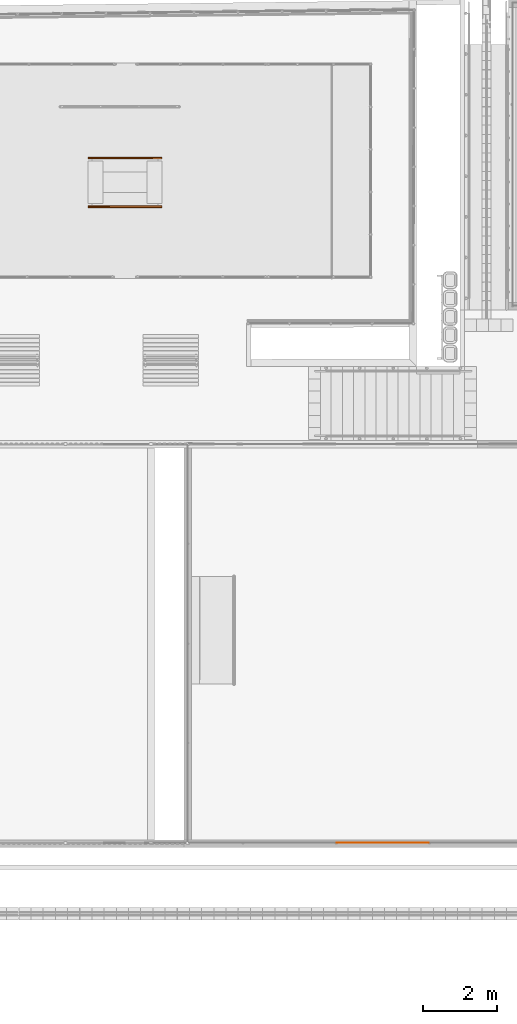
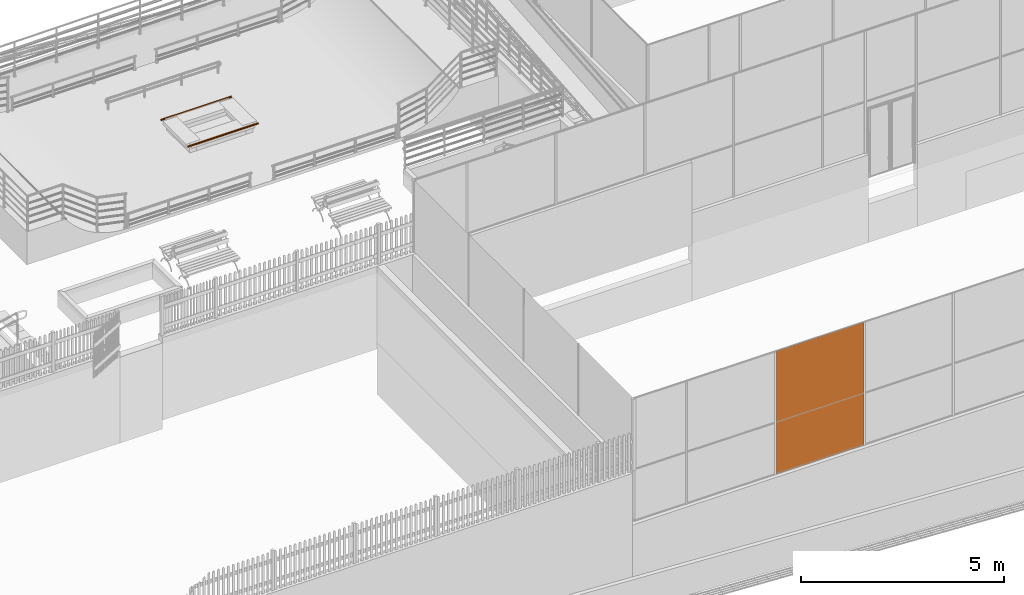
# One storey, part 152 of 237: 3 proxies.
"""IFC2X3 building model written with IfcOpenShell, lengths in millimetres."""

from ifc_helpers import new_model, entity, si_unit, converted_unit, derived_unit, money_unit, direction, frame, origin_with_axes, place, context, subcontext, project, spatial, open_shell, faceted_brep, surface_model, source, transform, mapped, type_object, element, save


model = new_model("IFC2X3")

# Units and contexts
model_context = context("Model", 3, precision=0.01, world=origin_with_axes(), true_north=direction((0.0, 1.0)))
body_context = subcontext(model_context, "Body", "Model", "MODEL_VIEW")
ifc_project = project(units=[si_unit("LENGTHUNIT", "METRE", prefix="MILLI"), si_unit("AREAUNIT", "SQUARE_METRE"), si_unit("VOLUMEUNIT", "CUBIC_METRE"), converted_unit("PLANEANGLEUNIT", "DEGREE", entity("IfcPlaneAngleMeasure", 0.0174532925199), si_unit("PLANEANGLEUNIT", "RADIAN"), dimensions=[0, 0, 0, 0, 0, 0, 0]), money_unit("USD"), converted_unit("TIMEUNIT", "Year", entity("IfcTimeMeasure", 31556926.0), si_unit("TIMEUNIT", "SECOND"), dimensions=[0, 0, 1, 0, 0, 0, 0]), si_unit("MASSUNIT", "GRAM", prefix="KILO"), si_unit("THERMODYNAMICTEMPERATUREUNIT", "DEGREE_CELSIUS"), si_unit("LUMINOUSINTENSITYUNIT", "LUMEN"), si_unit("ENERGYUNIT", "JOULE", prefix="MEGA"), derived_unit("THERMALCONDUCTANCEUNIT", [(si_unit("POWERUNIT", "WATT"), 1), (si_unit("LENGTHUNIT", "METRE"), -1), (si_unit("THERMODYNAMICTEMPERATUREUNIT", "KELVIN"), -1)]), derived_unit("SPECIFICHEATCAPACITYUNIT", [(si_unit("ENERGYUNIT", "JOULE"), 1), (si_unit("MASSUNIT", "GRAM", prefix="KILO"), -1), (si_unit("THERMODYNAMICTEMPERATUREUNIT", "KELVIN"), -1)]), derived_unit("MASSDENSITYUNIT", [(si_unit("MASSUNIT", "GRAM", prefix="KILO"), 1), (si_unit("VOLUMEUNIT", "CUBIC_METRE"), -1)])], contexts=[model_context])

# Site, building, storey
site_placement = place(None, origin_with_axes())
site = spatial("IfcSite", under=ifc_project, at=site_placement, Name="Local", CompositionType="ELEMENT")
building_placement = place(site_placement, origin_with_axes())
building = spatial("IfcBuilding", under=site, at=building_placement, Name="Construção", CompositionType="ELEMENT")
storey_placement = place(building_placement, origin_with_axes())
storey = spatial("IfcBuildingStorey", under=building, at=storey_placement, Name="Pavimento Térreo", CompositionType="ELEMENT", Elevation=0.0)

# Proxies
building_element_proxy_type_1 = type_object("IfcBuildingElementProxyType", Name="Tubo 25", PredefinedType="NOTDEFINED")
shared_shape_1 = source(origin_with_axes(), body_context, "Body", "Brep", [
    faceted_brep([(0.0, -6.47047612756, -24.1481456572), (0.0, -12.5, -21.6506350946), (0.0, -17.6776695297, -17.6776695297), (0.0, -21.6506350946, -12.5), (0.0, -24.1481456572, -6.47047612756), (0.0, -25.0, 0.0), (0.0, -24.1481456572, 6.47047612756), (0.0, -21.6506350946, 12.5), (0.0, -17.6776695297, 17.6776695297), (0.0, -12.5, 21.6506350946), (0.0, -6.47047612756, 24.1481456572), (0.0, 0.0, 25.0), (0.0, 6.47047612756, 24.1481456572), (0.0, 12.5, 21.6506350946), (0.0, 17.6776695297, 17.6776695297), (0.0, 21.6506350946, 12.5), (0.0, 24.1481456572, 6.47047612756), (0.0, 25.0, 0.0), (0.0, 24.1481456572, -6.47047612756), (0.0, 21.6506350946, -12.5), (0.0, 17.6776695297, -17.6776695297), (0.0, 12.5, -21.6506350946), (0.0, 6.47047612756, -24.1481456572), (0.0, 0.0, -25.0), (2000.0, -6.47047612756, -24.1481456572), (2000.0, -12.5, -21.6506350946), (2000.0, -17.6776695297, -17.6776695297), (2000.0, -21.6506350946, -12.5), (2000.0, -24.1481456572, -6.47047612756), (2000.0, -25.0, 0.0), (2000.0, -24.1481456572, 6.47047612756), (2000.0, -21.6506350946, 12.5), (2000.0, -17.6776695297, 17.6776695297), (2000.0, -12.5, 21.6506350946), (2000.0, -6.47047612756, 24.1481456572), (2000.0, 0.0, 25.0), (2000.0, 6.47047612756, 24.1481456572), (2000.0, 12.5, 21.6506350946), (2000.0, 17.6776695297, 17.6776695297), (2000.0, 21.6506350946, 12.5), (2000.0, 24.1481456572, 6.47047612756), (2000.0, 25.0, 0.0), (2000.0, 24.1481456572, -6.47047612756), (2000.0, 21.6506350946, -12.5), (2000.0, 17.6776695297, -17.6776695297), (2000.0, 12.5, -21.6506350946), (2000.0, 6.47047612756, -24.1481456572), (2000.0, 0.0, -25.0)], [[[0, 1, 2, 3, 4, 5, 6, 7, 8, 9, 10, 11, 12, 13, 14, 15, 16, 17, 18, 19, 20, 21, 22, 23]], [[1, 0, 24, 25]], [[2, 1, 25, 26]], [[3, 2, 26, 27]], [[4, 3, 27, 28]], [[5, 4, 28, 29]], [[6, 5, 29, 30]], [[7, 6, 30, 31]], [[8, 7, 31, 32]], [[9, 8, 32, 33]], [[10, 9, 33, 34]], [[11, 10, 34, 35]], [[12, 11, 35, 36]], [[13, 12, 36, 37]], [[14, 13, 37, 38]], [[15, 14, 38, 39]], [[16, 15, 39, 40]], [[17, 16, 40, 41]], [[18, 17, 41, 42]], [[19, 18, 42, 43]], [[20, 19, 43, 44]], [[21, 20, 44, 45]], [[22, 21, 45, 46]], [[23, 22, 46, 47]], [[0, 23, 47, 24]], [[24, 47, 46, 45, 44, 43, 42, 41, 40, 39, 38, 37, 36, 35, 34, 33, 32, 31, 30, 29, 28, 27, 26, 25]]]),
])
for number, where, z_axis, x_axis, name in (
    (1, (56762.4440926, 29992.9581067, -977.607230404), (0.0, 0.0, 1.0), (1.0, 0.0, 0.0), "Objeto-0077"),
    (2, (56762.4440926, 31311.4306555, -977.607230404), (0.0, 0.0, 1.0), (1.0, 0.0, 0.0), "Objeto-0077"),
):
    element("IfcBuildingElementProxy", number, at=place(storey_placement, frame(where, z_axis=z_axis, x_axis=x_axis)), inside=storey, type_object=building_element_proxy_type_1, Name=name, context=body_context, shape_type="MappedRepresentation", body=[
        mapped(shared_shape_1, transform((0.0, 0.0, 0.0))),
    ])
building_element_proxy_type_2 = type_object("IfcBuildingElementProxyType", Name="Tela metalica1", PredefinedType="NOTDEFINED")
shared_shape_2 = source(origin_with_axes(), body_context, "Body", "SurfaceModel", [
    surface_model("IfcShellBasedSurfaceModel", [(2425.90485323, 0.0, 3702.79626524), (0.0, 556.074761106, 3702.79626524), (0.0, 556.074761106, 0.0), (2425.90485323, 0.0, 0.0)], [open_shell([[[0, 1, 2, 3]]])]),
])
proxy_placement = place(storey_placement, frame((63633.480828, 12204.8672655, -2726.37402835), z_axis=(0.0, 0.0, 1.0), x_axis=(0.974874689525, 0.222753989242, 0.0)))
element("IfcBuildingElementProxy", 3, at=proxy_placement, inside=storey, type_object=building_element_proxy_type_2, Name="Objeto-0044", context=body_context, shape_type="MappedRepresentation", body=[
    mapped(shared_shape_2, transform((0.0, 0.0, 0.0))),
])

save(model, "model.ifc")
